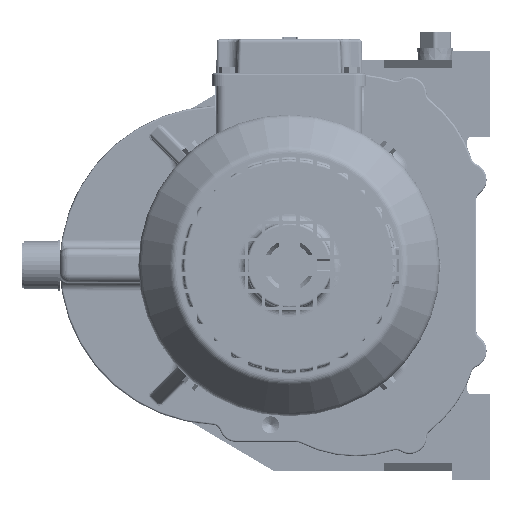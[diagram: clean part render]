
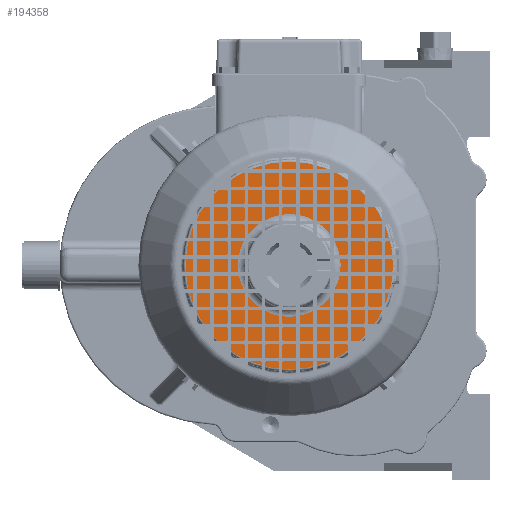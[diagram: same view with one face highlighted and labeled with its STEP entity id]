
A CAD part, left-side view. The second image highlights one B-rep face of the part: STEP entity #194358.
In plain terms, the highlighted planar face has unit normal (-1, 0, 0).
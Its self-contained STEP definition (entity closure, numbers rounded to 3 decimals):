
#10563 = CARTESIAN_POINT ( 'NONE',  ( -197., -35.891, -30. ) ) ;
#13070 = CARTESIAN_POINT ( 'NONE',  ( -197., -35.891, 30. ) ) ;
#19104 = VERTEX_POINT ( 'NONE', #347295 ) ;
#28954 = DIRECTION ( 'NONE',  ( -1., 0., 0. ) ) ;
#34285 = AXIS2_PLACEMENT_3D ( 'NONE', #195411, #136883, #198901 ) ;
#34966 = EDGE_CURVE ( 'NONE', #19104, #137260, #82075, .T. ) ;
#40881 = ORIENTED_EDGE ( 'NONE', *, *, #262824, .T. ) ;
#42110 = ORIENTED_EDGE ( 'NONE', *, *, #34966, .T. ) ;
#51680 = PLANE ( 'NONE',  #34285 ) ;
#55255 = VERTEX_POINT ( 'NONE', #13070 ) ;
#67042 = DIRECTION ( 'NONE',  ( 0., 0., -1. ) ) ;
#70669 = DIRECTION ( 'NONE',  ( 0., 0., -1. ) ) ;
#80637 = AXIS2_PLACEMENT_3D ( 'NONE', #129839, #128085, #292990 ) ;
#82075 = CIRCLE ( 'NONE', #224040, 60.5 ) ;
#120446 = CARTESIAN_POINT ( 'NONE',  ( -197., -35.891, 0. ) ) ;
#128085 = DIRECTION ( 'NONE',  ( 1., 0., 0. ) ) ;
#128253 = EDGE_CURVE ( 'NONE', #248019, #55255, #233710, .T. ) ;
#129839 = CARTESIAN_POINT ( 'NONE',  ( -197., -35.891, 0. ) ) ;
#136883 = DIRECTION ( 'NONE',  ( 1., 0., 0. ) ) ;
#137260 = VERTEX_POINT ( 'NONE', #196960 ) ;
#138289 = CARTESIAN_POINT ( 'NONE',  ( -197., -35.891, 0. ) ) ;
#139421 = EDGE_CURVE ( 'NONE', #55255, #248019, #218941, .T. ) ;
#160645 = CARTESIAN_POINT ( 'NONE',  ( -197., -35.891, 0. ) ) ;
#169044 = EDGE_LOOP ( 'NONE', ( #336211, #192016 ) ) ;
#186672 = FACE_OUTER_BOUND ( 'NONE', #286752, .T. ) ;
#191648 = AXIS2_PLACEMENT_3D ( 'NONE', #160645, #28954, #268717 ) ;
#192016 = ORIENTED_EDGE ( 'NONE', *, *, #139421, .T. ) ;
#194358 = ADVANCED_FACE ( 'NONE', ( #216824, #186672 ), #51680, .F. ) ;
#195411 = CARTESIAN_POINT ( 'NONE',  ( -197., -10.891, 0. ) ) ;
#196960 = CARTESIAN_POINT ( 'NONE',  ( -197., -35.891, 60.5 ) ) ;
#198901 = DIRECTION ( 'NONE',  ( 0., 0., -1. ) ) ;
#203023 = CIRCLE ( 'NONE', #191648, 60.5 ) ;
#213352 = AXIS2_PLACEMENT_3D ( 'NONE', #120446, #233953, #70669 ) ;
#216824 = FACE_BOUND ( 'NONE', #169044, .T. ) ;
#218941 = CIRCLE ( 'NONE', #213352, 30. ) ;
#224040 = AXIS2_PLACEMENT_3D ( 'NONE', #138289, #226864, #67042 ) ;
#226864 = DIRECTION ( 'NONE',  ( -1., 0., 0. ) ) ;
#233710 = CIRCLE ( 'NONE', #80637, 30. ) ;
#233953 = DIRECTION ( 'NONE',  ( 1., 0., 0. ) ) ;
#248019 = VERTEX_POINT ( 'NONE', #10563 ) ;
#262824 = EDGE_CURVE ( 'NONE', #137260, #19104, #203023, .T. ) ;
#268717 = DIRECTION ( 'NONE',  ( 0., 0., -1. ) ) ;
#286752 = EDGE_LOOP ( 'NONE', ( #42110, #40881 ) ) ;
#292990 = DIRECTION ( 'NONE',  ( 0., 0., -1. ) ) ;
#336211 = ORIENTED_EDGE ( 'NONE', *, *, #128253, .T. ) ;
#347295 = CARTESIAN_POINT ( 'NONE',  ( -197., -35.891, -60.5 ) ) ;
